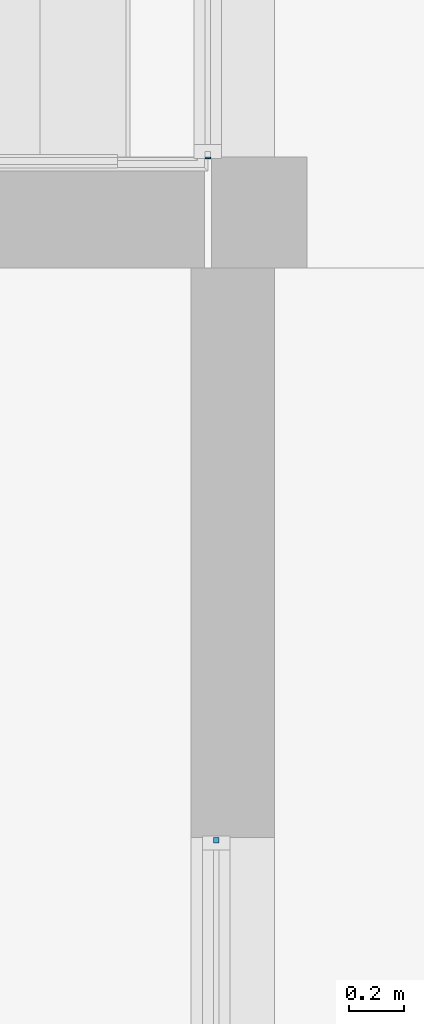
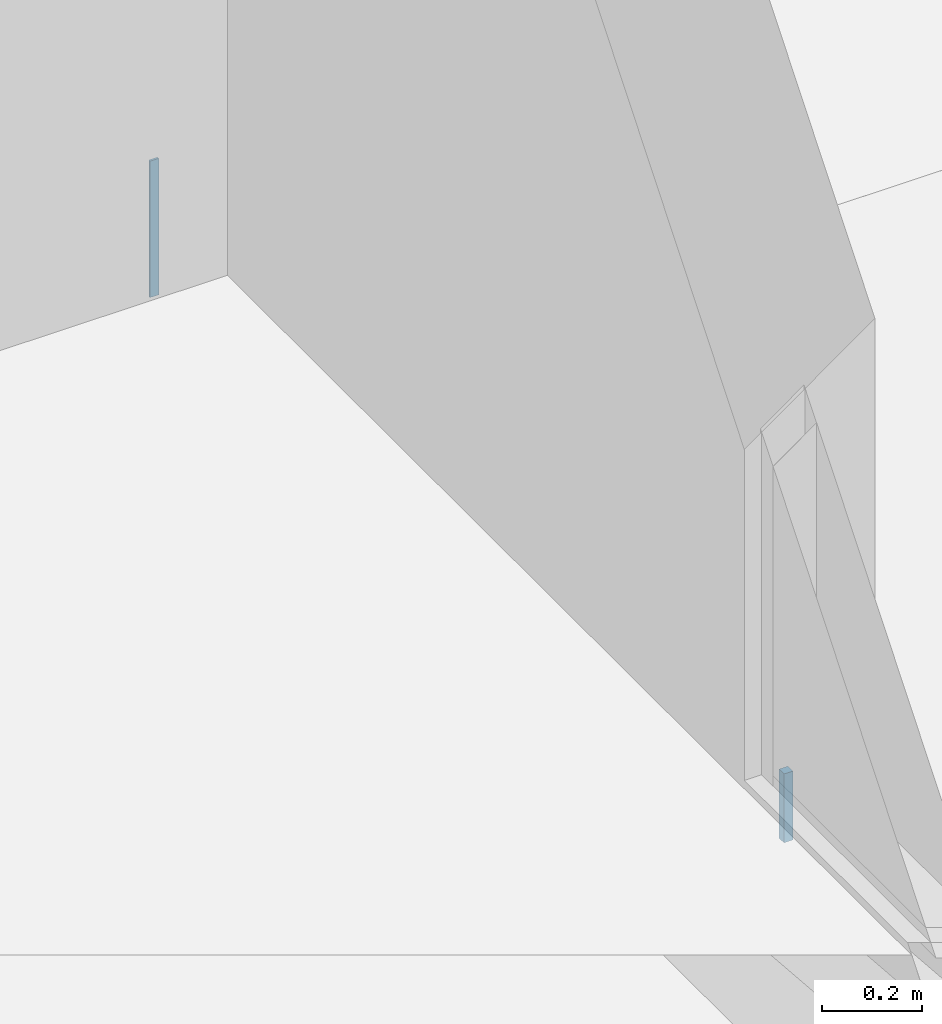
# One storey, part 50 of 117: 2 plates, 2 elements without a shape of their own.
"""IFC4 building model written with IfcOpenShell, lengths in metres."""

from ifc_helpers import new_model, entity, si_unit, converted_unit, derived_unit, direction, frame, origin, place, context, subcontext, project, spatial, indexed_curve, outline, extrude, source, transform, mapped, material, type_object, type_shapes, element, aggregate, save


model = new_model("IFC4")

# Units and contexts
model_context = context("Model", 3, precision=1e-05, world=origin(), true_north=direction((6.123031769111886e-17, 1.0)))
body_context = subcontext(model_context, "Body", "Model", "MODEL_VIEW")
ifc_project = project(units=[si_unit("LENGTHUNIT", "METRE"), si_unit("AREAUNIT", "SQUARE_METRE"), si_unit("VOLUMEUNIT", "CUBIC_METRE"), converted_unit("PLANEANGLEUNIT", "DEGREE", entity("IfcRatioMeasure", 0.017453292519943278), si_unit("PLANEANGLEUNIT", "RADIAN"), dimensions=[0, 0, 0, 0, 0, 0, 0]), si_unit("MASSUNIT", "GRAM", prefix="KILO"), derived_unit("MASSDENSITYUNIT", [(si_unit("MASSUNIT", "GRAM", prefix="KILO"), 1), (si_unit("LENGTHUNIT", "METRE"), -3)]), derived_unit("MOMENTOFINERTIAUNIT", [(si_unit("LENGTHUNIT", "METRE"), 4)]), si_unit("TIMEUNIT", "SECOND"), si_unit("FREQUENCYUNIT", "HERTZ"), si_unit("THERMODYNAMICTEMPERATUREUNIT", "DEGREE_CELSIUS"), derived_unit("THERMALTRANSMITTANCEUNIT", [(si_unit("MASSUNIT", "GRAM", prefix="KILO"), 1), (si_unit("THERMODYNAMICTEMPERATUREUNIT", "KELVIN"), -1), (si_unit("TIMEUNIT", "SECOND"), -3)]), derived_unit("VOLUMETRICFLOWRATEUNIT", [(si_unit("LENGTHUNIT", "METRE"), 3), (si_unit("TIMEUNIT", "SECOND"), -1)]), derived_unit("MASSFLOWRATEUNIT", [(si_unit("MASSUNIT", "GRAM", prefix="KILO"), 1), (si_unit("TIMEUNIT", "SECOND"), -1)]), derived_unit("ROTATIONALFREQUENCYUNIT", [(si_unit("TIMEUNIT", "SECOND"), -1)]), si_unit("ELECTRICCURRENTUNIT", "AMPERE"), si_unit("ELECTRICVOLTAGEUNIT", "VOLT"), si_unit("POWERUNIT", "WATT"), si_unit("FORCEUNIT", "NEWTON", prefix="KILO"), si_unit("ILLUMINANCEUNIT", "LUX"), si_unit("LUMINOUSFLUXUNIT", "LUMEN"), si_unit("LUMINOUSINTENSITYUNIT", "CANDELA"), derived_unit("USERDEFINED", [(si_unit("MASSUNIT", "GRAM", prefix="KILO"), -1), (si_unit("LENGTHUNIT", "METRE"), -2), (si_unit("TIMEUNIT", "SECOND"), 3), (si_unit("LUMINOUSFLUXUNIT", "LUMEN"), 1)]), derived_unit("SOUNDPOWERUNIT", [(si_unit("MASSUNIT", "GRAM", prefix="KILO"), 1), (si_unit("LENGTHUNIT", "METRE"), 2), (si_unit("TIMEUNIT", "SECOND"), -3)]), derived_unit("SOUNDPRESSUREUNIT", [(si_unit("MASSUNIT", "GRAM", prefix="KILO"), 1), (si_unit("LENGTHUNIT", "METRE"), -1), (si_unit("TIMEUNIT", "SECOND"), -2)]), derived_unit("LINEARVELOCITYUNIT", [(si_unit("LENGTHUNIT", "METRE"), 1), (si_unit("TIMEUNIT", "SECOND"), -1)]), si_unit("PRESSUREUNIT", "PASCAL"), derived_unit("USERDEFINED", [(si_unit("LENGTHUNIT", "METRE"), -2), (si_unit("MASSUNIT", "GRAM", prefix="KILO"), 1), (si_unit("TIMEUNIT", "SECOND"), -2)]), derived_unit("LINEARFORCEUNIT", [(si_unit("MASSUNIT", "GRAM", prefix="KILO"), 1), (si_unit("LENGTHUNIT", "METRE"), 1), (si_unit("TIMEUNIT", "SECOND"), -2), (si_unit("LENGTHUNIT", "METRE"), -1)]), derived_unit("PLANARFORCEUNIT", [(si_unit("MASSUNIT", "GRAM", prefix="KILO"), 1), (si_unit("LENGTHUNIT", "METRE"), 1), (si_unit("TIMEUNIT", "SECOND"), -2), (si_unit("LENGTHUNIT", "METRE"), -2)])], contexts=[model_context])

# Site, building, storey
site_placement = place(None, origin())
site = spatial("IfcSite", under=ifc_project, at=site_placement, Name="Superficie", CompositionType="ELEMENT")
building_placement = place(site_placement, origin())
building = spatial("IfcBuilding", under=site, at=building_placement, CompositionType="ELEMENT")
storey_placement = place(building_placement, origin())
storey = spatial("IfcBuildingStorey", under=building, at=storey_placement, Name="Nivel 0", CompositionType="ELEMENT", Elevation=0.0)

# Curtain wall, plate
curtain_wall_type = type_object("IfcCurtainWallType", Name="Muro cortina:Muro cortina - simple", PredefinedType="NOTDEFINED")
curtain_wall_1_placement = place(storey_placement, origin())
curtain_wall_1 = element("IfcCurtainWall", 1, at=curtain_wall_1_placement, inside=storey, type_object=curtain_wall_type, Name="Muro cortina:Muro cortina - simple", ObjectType="Muro cortina:Muro cortina - simple", PredefinedType="NOTDEFINED")
ifc_material = material(Name="Cristal", Category="Vidrio")
plate_type_1 = type_object("IfcPlateType", Name="Panel de sistema:Acristalado", PredefinedType="CURTAIN_PANEL", material=ifc_material)
shared_shape_1 = source(origin(), body_context, "Body", "SweptSolid", [
    extrude(outline(indexed_curve([(-0.0849883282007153, -0.009999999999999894), (0.08415804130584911, -0.009999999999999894), (0.08415804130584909, 0.009999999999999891), (-0.08332775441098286, 0.0099999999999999), (-0.0849883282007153, -0.009999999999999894)], self_intersect=False)), frame((0.0, -0.010000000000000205, 0.0849883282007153), z_axis=(0.0, 1.0, 0.0), x_axis=(0.0, 0.0, 1.0)), (0.0, 0.0, 1.0), 0.019999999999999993),
])
type_shapes(plate_type_1, [shared_shape_1])
plate_1_placement = place(curtain_wall_1_placement, frame((-3.3632009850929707, 8.303063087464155, -0.14914636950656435), z_axis=(0.0, 0.0, 1.0), x_axis=(0.0, -1.0, 0.0)))
plate_1 = element("IfcPlate", 2, at=plate_1_placement, type_object=plate_type_1, material=ifc_material, Name="Panel de sistema:Acristalado", ObjectType="Panel de sistema:Acristalado", PredefinedType="CURTAIN_PANEL", context=body_context, shape_type="MappedRepresentation", body=[
    mapped(shared_shape_1, transform((0.0, 0.0, 0.0), scale=1.0)),
])
aggregate(curtain_wall_1, [plate_1])

curtain_wall_2_placement = place(storey_placement, origin())
curtain_wall_2 = element("IfcCurtainWall", 3, at=curtain_wall_2_placement, inside=storey, type_object=curtain_wall_type, Name="Muro cortina:Muro cortina - simple", ObjectType="Muro cortina:Muro cortina - simple", PredefinedType="NOTDEFINED")
plate_type_2 = type_object("IfcPlateType", Name="Panel de sistema:Acristalado", PredefinedType="CURTAIN_PANEL", material=ifc_material)
shared_shape_2 = source(origin(), body_context, "Body", "SweptSolid", [
    extrude(outline(indexed_curve([(0.0011000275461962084, -0.16564053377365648), (0.006101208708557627, -0.1656405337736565), (-0.001101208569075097, 0.16569486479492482), (-0.0061000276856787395, 0.1655862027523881), (0.0011000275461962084, -0.16564053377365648)], self_intersect=False)), frame((0.0, -0.009999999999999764, 0.16573400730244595), z_axis=(0.0, 1.0, 0.0), x_axis=(-0.999763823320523, 0.0, -0.021732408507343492)), (0.0, 0.0, 1.0), 0.019999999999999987),
])
type_shapes(plate_type_2, [shared_shape_2])
plate_2_placement = place(curtain_wall_2_placement, frame((-3.3932009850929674, 10.768329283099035, -0.3114136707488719), z_axis=(0.0, 0.0, 1.0), x_axis=(0.0, 1.0, 0.0)))
plate_2 = element("IfcPlate", 4, at=plate_2_placement, type_object=plate_type_2, material=ifc_material, Name="Panel de sistema:Acristalado", ObjectType="Panel de sistema:Acristalado", PredefinedType="CURTAIN_PANEL", context=body_context, shape_type="MappedRepresentation", body=[
    mapped(shared_shape_2, transform((0.0, 0.0, 0.0), scale=1.0)),
])
aggregate(curtain_wall_2, [plate_2])

save(model, "model.ifc")
